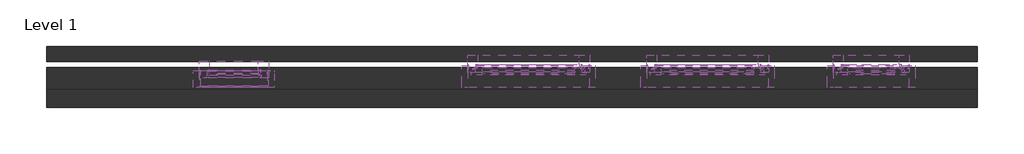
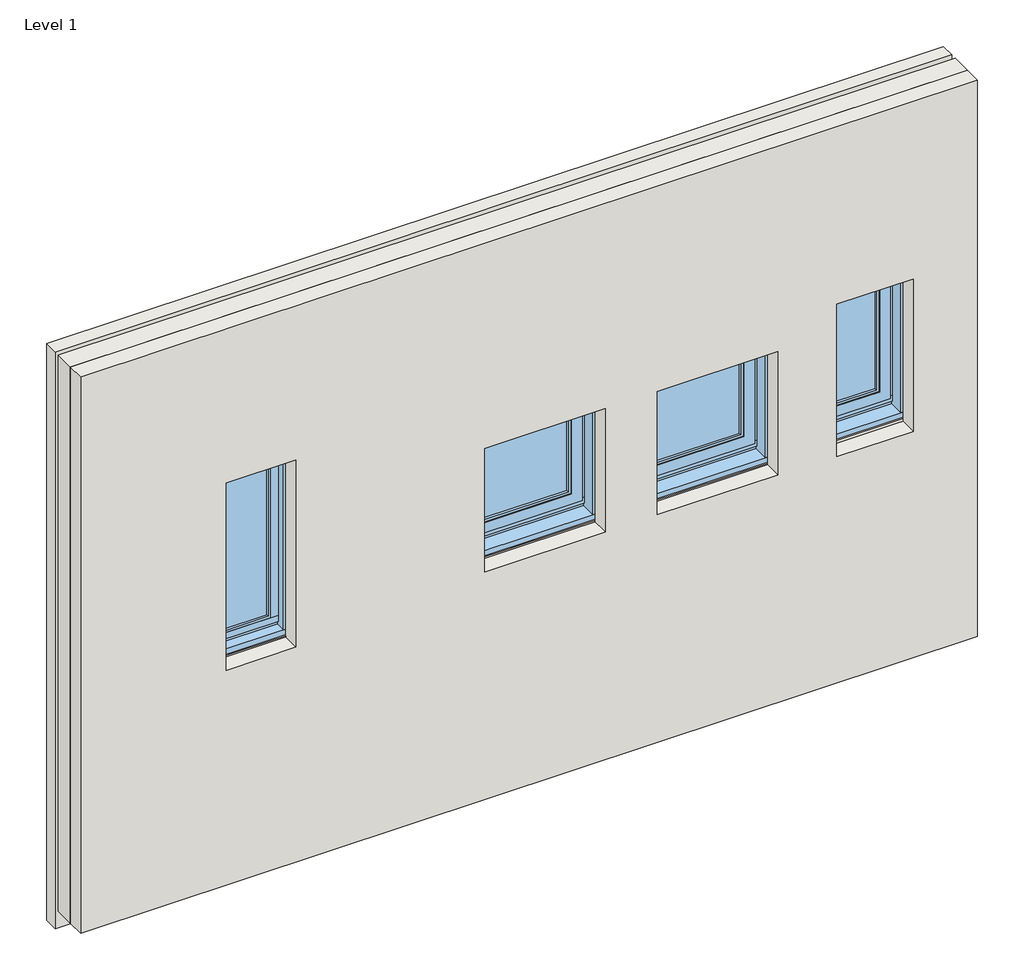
# One storey: 49 windows, 3 walls, 1 assembly.
"""IFC4 building model written with IfcOpenShell, lengths in millimetres."""

from ifc_helpers import new_model, si_unit, frame, origin, place, context, project, spatial, polyline, outline, extrude, faceted_brep, transform, mapped, element, save
from components import assembly_5325c99d, window_7516f263, window_0d1de98a, window_6d7f6df3, window_522cf8dc, window_de1a16cd, window_43f0fc4d, window_45f6263d, window_7e491630, window_17x17_4fd7d2a2, window_17x17_9f9c80e4, window_43x145_40ad70f9, window_43x145_54d50d98, window_53x145_1822dd6a, window_53x145_cc17f5d3, window_68x90_2b73533a, window_68x90_cc8fd18b, type_877268f2, type_0742a6f5, type_b2457fb0, type_2cc2a0ae, type_3ffed789, type_fa8d7bbd, type_75c93bea, type_42751e48, type_1c15dc0f, type_efeb9785, bis_67x114_182fecaf, bis_67x114_98b7bb84, dv_bis_67x114_ce80c372, dv_bis_67x114_87e64734, dv_bis67x114_da2e3f7c, dv_bis67x114_6041befc, dv_bis67x114_6f5bf67f, dv_bis67x114_4c47c3ec, type_e34618c7, type_f8ae4d67, type_0a3f7664

model = new_model("IFC4")

# Units and contexts
model_context = context("Model", 3, world=origin())
ifc_project = project(units=[si_unit("LENGTHUNIT", "METRE", prefix="MILLI")], contexts=[model_context])

# Site, building, storey
site = spatial("IfcSite", under=ifc_project)
building = spatial("IfcBuilding", under=site)
storey = spatial("IfcBuildingStorey", under=building, Name="Level 1", Elevation=0.0)

# Assembly
placement = place(None, origin())
assembly_shape = assembly_5325c99d(model_context)
element("IfcElementAssembly", 1, ObjectType="NLRS_31_WI_H11_A1vg_GM : 455 breed", at=placement, inside=storey, context=model_context, shape_type="MappedRepresentation", body=[
    mapped(assembly_shape, transform((-1382.8843523, 5876.3964558, 450.0), x_axis=(-1.0, 0.0, 0.0), y_axis=(0.0, -1.0, 0.0), z_axis=(0.0, 0.0, 1.0))),
])

# Walls
element("IfcWall", 2, ObjectType="NLRS_21_WA_isolatie_EPS 140mm", at=placement, inside=storey, context=model_context, shape_type="Brep", body=[
    faceted_brep([(-2610.8843523, 5691.3964558, 0.0), (3489.1156477, 5691.3964558, 0.0), (3489.1156477, 5691.3964558, 4000.0), (-2610.8843523, 5691.3964558, 4000.0), (109.8328544, 5691.3964558, 1647.1275233), (109.8328544, 5691.3964558, 2523.4575434), (985.8328544, 5691.3964558, 2523.4575434), (985.8328544, 5691.3964558, 1647.1275233), (1282.9030625, 5691.3964558, 1647.1275233), (1282.9030625, 5691.3964558, 2523.4575434), (2158.9030625, 5691.3964558, 2523.4575434), (2158.9030625, 5691.3964558, 1647.1275233), (2504.9732706, 5691.3964558, 1647.1275233), (2504.9732706, 5691.3964558, 2723.4575434), (3080.9732706, 5691.3964558, 2723.4575434), (3080.9732706, 5691.3964558, 1647.1275233), (-1648.3843523, 5691.3964558, 1554.6), (-1648.3843523, 5691.3964558, 3121.021725), (-1117.3843523, 5691.3964558, 3121.021725), (-1117.3843523, 5691.3964558, 1554.6), (3489.1156477, 5831.3964558, 0.0), (-2610.8843523, 5831.3964558, 0.0), (-2610.8843523, 5831.3964558, 4000.0), (3489.1156477, 5831.3964558, 4000.0), (1282.9030625, 5831.3964558, 2516.1204543), (1282.9030625, 5831.3964558, 1647.1275233), (2158.9030625, 5831.3964558, 1647.1275233), (2158.9030625, 5831.3964558, 2516.1204543), (2504.9732706, 5831.3964558, 2716.1204543), (2504.9732706, 5831.3964558, 1647.1275233), (3080.9732706, 5831.3964558, 1647.1275233), (3080.9732706, 5831.3964558, 2716.1204543), (109.8328544, 5831.3964558, 2516.1204543), (109.8328544, 5831.3964558, 1647.1275233), (985.8328544, 5831.3964558, 1647.1275233), (985.8328544, 5831.3964558, 2516.1204543), (-1648.3843523, 5831.3964558, 3113.6846359), (-1648.3843523, 5831.3964558, 1554.6), (-1117.3843523, 5831.3964558, 1554.6), (-1117.3843523, 5831.3964558, 3113.6846359)], [[[0, 1, 2, 3], [4, 5, 6, 7], [8, 9, 10, 11], [12, 13, 14, 15], [16, 17, 18, 19]], [[20, 21, 22, 23], [24, 25, 26, 27], [28, 29, 30, 31], [32, 33, 34, 35], [36, 37, 38, 39]], [[1, 0, 21, 20]], [[2, 1, 20, 23]], [[3, 2, 23, 22]], [[0, 3, 22, 21]], [[32, 5, 4, 33]], [[6, 35, 34, 7]], [[33, 4, 7, 34]], [[5, 32, 35, 6]], [[24, 9, 8, 25]], [[26, 11, 10, 27]], [[25, 8, 11, 26]], [[9, 24, 27, 10]], [[28, 13, 12, 29]], [[30, 15, 14, 31]], [[29, 12, 15, 30]], [[13, 28, 31, 14]], [[36, 17, 16, 37]], [[38, 19, 18, 39]], [[37, 16, 19, 38]], [[17, 36, 39, 18]]]),
])
element("IfcWall", 3, ObjectType="NLRS_21_WA_kalkzandsteen CS12 120mm", at=placement, inside=storey, context=model_context, shape_type="SweptSolid", body=[
    extrude(outline(polyline([(0.0, 3489.1156477), (4000.0, 3489.1156477), (4000.0, -2610.8843523), (0.0, -2610.8843523), (0.0, 3489.1156477)]), holes=[polyline([(2523.1275233, 137.8328544), (2523.1275233, 957.8328544), (1637.1275233, 957.8328544), (1637.1275233, 137.8328544), (2523.1275233, 137.8328544)]), polyline([(2523.1275233, 1310.9030625), (2523.1275233, 2130.9030625), (1637.1275233, 2130.9030625), (1637.1275233, 1310.9030625), (2523.1275233, 1310.9030625)]), polyline([(2723.1275233, 2532.9732706), (2723.1275233, 3052.9732706), (1627.1275233, 3052.9732706), (1627.1275233, 2532.9732706), (2723.1275233, 2532.9732706)]), polyline([(2890.0, -1620.3843523), (2890.0, -1145.3843523), (1544.6, -1145.3843523), (1544.6, -1620.3843523), (2890.0, -1620.3843523)])]), frame((0.0, 5571.3964558, 0.0), z_axis=(0.0, 1.0, 0.0), x_axis=(0.0, 0.0, 1.0)), (0.0, 0.0, 1.0), 120.0),
])
element("IfcWall", 4, ObjectType="NLRS_21_WA_metselwerk bestaand 100mm", at=placement, inside=storey, context=model_context, shape_type="SweptSolid", body=[
    extrude(outline(polyline([(-150.0, -2610.8843523), (-150.0, 3489.1156477), (4000.0, 3489.1156477), (4000.0, -2610.8843523), (-150.0, -2610.8843523)]), holes=[polyline([(2523.1275233, 137.8328544), (2523.1275233, 957.8328544), (1637.1275233, 957.8328544), (1637.1275233, 137.8328544), (2523.1275233, 137.8328544)]), polyline([(2523.1275233, 1310.9030625), (2523.1275233, 2130.9030625), (1637.1275233, 2130.9030625), (1637.1275233, 1310.9030625), (2523.1275233, 1310.9030625)]), polyline([(2723.1275233, 2532.9732706), (2723.1275233, 3052.9732706), (1627.1275233, 3052.9732706), (1627.1275233, 2532.9732706), (2723.1275233, 2532.9732706)]), polyline([(2890.0, -1620.3843523), (2890.0, -1145.3843523), (1544.6, -1145.3843523), (1544.6, -1620.3843523), (2890.0, -1620.3843523)])]), frame((0.0, 5871.3964558, 0.0), z_axis=(0.0, 1.0, 0.0), x_axis=(0.0, 0.0, 1.0)), (0.0, 0.0, 1.0), 100.0),
])

# Windows
window_shape = window_7516f263(model_context)
element("IfcWindow", 5, ObjectType="NLRS_30_WIN_spouwlat-zijstijll_sh_gen_TOBA-JM : ok-bk-recht-45x145", at=placement, inside=storey, context=model_context, shape_type="MappedRepresentation", body=[
    mapped(window_shape, transform((147.8328544, 5846.3964558, 1685.1275233), x_axis=(1.0, 0.0, 0.0), y_axis=(0.0, 1.0, 0.0), z_axis=(0.0, 0.0, 1.0))),
])
element("IfcWindow", 6, ObjectType="NLRS_30_WIN_spouwlat-zijstijll_sh_gen_TOBA-JM : ok-bk-recht-45x145", at=placement, inside=storey, context=model_context, shape_type="MappedRepresentation", body=[
    mapped(window_shape, transform((1320.9030625, 5846.3964558, 1685.1275233), x_axis=(1.0, 0.0, 0.0), y_axis=(0.0, 1.0, 0.0), z_axis=(0.0, 0.0, 1.0))),
])
window_2_shape = window_0d1de98a(model_context)
element("IfcWindow", 7, ObjectType="NLRS_30_WIN_spouwlat-zijstijll_sh_gen_TOBA-JM : ok-bk-recht-45x145", at=placement, inside=storey, context=model_context, shape_type="MappedRepresentation", body=[
    mapped(window_2_shape, transform((947.8328544, 5846.3964558, 1685.1275233), x_axis=(-1.0, 0.0, 0.0), y_axis=(0.0, -1.0, 0.0), z_axis=(0.0, 0.0, 1.0))),
])
element("IfcWindow", 8, ObjectType="NLRS_30_WIN_spouwlat-zijstijll_sh_gen_TOBA-JM : ok-bk-recht-45x145", at=placement, inside=storey, context=model_context, shape_type="MappedRepresentation", body=[
    mapped(window_2_shape, transform((2120.9030625, 5846.3964558, 1685.1275233), x_axis=(-1.0, 0.0, 0.0), y_axis=(0.0, -1.0, 0.0), z_axis=(0.0, 0.0, 1.0))),
])
window_3_shape = window_6d7f6df3(model_context)
element("IfcWindow", 9, ObjectType="NLRS_30_WIN_aanslagprofiel_sh_gen_TOBA-JM : aanslagprofiel", at=placement, inside=storey, context=model_context, shape_type="MappedRepresentation", body=[
    mapped(window_3_shape, transform((547.8328544, 5852.3964558, 1752.1275233), x_axis=(-1.0, 0.0, 0.0), y_axis=(0.0, -1.0, 0.0), z_axis=(0.0, 0.0, 1.0))),
])
element("IfcWindow", 10, ObjectType="NLRS_30_WIN_aanslagprofiel_sh_gen_TOBA-JM : aanslagprofiel", at=placement, inside=storey, context=model_context, shape_type="MappedRepresentation", body=[
    mapped(window_3_shape, transform((1720.9030625, 5852.3964558, 1752.1275233), x_axis=(-1.0, 0.0, 0.0), y_axis=(0.0, -1.0, 0.0), z_axis=(0.0, 0.0, 1.0))),
])
window_4_shape = window_522cf8dc(model_context)
element("IfcWindow", 11, ObjectType="NLRS_30_WIN_glas-isolerend-raam_sh_gen_TOBA-JM : isolerend-raam", at=placement, inside=storey, context=model_context, shape_type="MappedRepresentation", body=[
    mapped(window_4_shape, transform((547.8328544, 5852.3964558, 1752.1275233), x_axis=(-1.0, 0.0, 0.0), y_axis=(0.0, -1.0, 0.0), z_axis=(0.0, 0.0, 1.0))),
])
element("IfcWindow", 12, ObjectType="NLRS_30_WIN_glas-isolerend-raam_sh_gen_TOBA-JM : isolerend-raam", at=placement, inside=storey, context=model_context, shape_type="MappedRepresentation", body=[
    mapped(window_4_shape, transform((1720.9030625, 5852.3964558, 1752.1275233), x_axis=(-1.0, 0.0, 0.0), y_axis=(0.0, -1.0, 0.0), z_axis=(0.0, 0.0, 1.0))),
])
window_5_shape = window_de1a16cd(model_context)
element("IfcWindow", 13, ObjectType="NLRS_30_WIN_spouwlat-zijstijll_sh_gen_TOBA-JM : ok-bk-recht-45x145", at=placement, inside=storey, context=model_context, shape_type="MappedRepresentation", body=[
    mapped(window_5_shape, transform((2542.9732706, 5846.3964558, 1685.1275233), x_axis=(1.0, 0.0, 0.0), y_axis=(0.0, 1.0, 0.0), z_axis=(0.0, 0.0, 1.0))),
])
window_6_shape = window_43f0fc4d(model_context)
element("IfcWindow", 14, ObjectType="NLRS_30_WIN_spouwlat-zijstijll_sh_gen_TOBA-JM : ok-bk-recht-45x145", at=placement, inside=storey, context=model_context, shape_type="MappedRepresentation", body=[
    mapped(window_6_shape, transform((3042.9732706, 5846.3964558, 1685.1275233), x_axis=(-1.0, 0.0, 0.0), y_axis=(0.0, -1.0, 0.0), z_axis=(0.0, 0.0, 1.0))),
])
window_7_shape = window_45f6263d(model_context)
element("IfcWindow", 15, ObjectType="NLRS_30_WIN_aanslagprofiel_sh_gen_TOBA-JM : aanslagprofiel", at=placement, inside=storey, context=model_context, shape_type="MappedRepresentation", body=[
    mapped(window_7_shape, transform((2792.9732706, 5852.3964558, 1752.1275233), x_axis=(-1.0, 0.0, 0.0), y_axis=(0.0, -1.0, 0.0), z_axis=(0.0, 0.0, 1.0))),
])
window_8_shape = window_7e491630(model_context)
element("IfcWindow", 16, ObjectType="NLRS_30_WIN_glas-isolerend-raam_sh_gen_TOBA-JM : isolerend-raam", at=placement, inside=storey, context=model_context, shape_type="MappedRepresentation", body=[
    mapped(window_8_shape, transform((2792.9732706, 5852.3964558, 1752.1275233), x_axis=(-1.0, 0.0, 0.0), y_axis=(0.0, -1.0, 0.0), z_axis=(0.0, 0.0, 1.0))),
])
window_17x17_shape = window_17x17_4fd7d2a2(model_context)
element("IfcWindow", 17, ObjectType="NLRS_30_WIN_glaslat-raam_sh_gen_TOBA-JM : 17x17", at=placement, inside=storey, context=model_context, shape_type="MappedRepresentation", body=[
    mapped(window_17x17_shape, transform((547.8328544, 5852.3964558, 1752.1275233), x_axis=(-1.0, 0.0, 0.0), y_axis=(0.0, -1.0, 0.0), z_axis=(0.0, 0.0, 1.0))),
])
element("IfcWindow", 18, ObjectType="NLRS_30_WIN_glaslat-raam_sh_gen_TOBA-JM : 17x17", at=placement, inside=storey, context=model_context, shape_type="MappedRepresentation", body=[
    mapped(window_17x17_shape, transform((1720.9030625, 5852.3964558, 1752.1275233), x_axis=(-1.0, 0.0, 0.0), y_axis=(0.0, -1.0, 0.0), z_axis=(0.0, 0.0, 1.0))),
])
window_17x17_2_shape = window_17x17_9f9c80e4(model_context)
element("IfcWindow", 19, ObjectType="NLRS_30_WIN_glaslat-raam_sh_gen_TOBA-JM : 17x17", at=placement, inside=storey, context=model_context, shape_type="MappedRepresentation", body=[
    mapped(window_17x17_2_shape, transform((2792.9732706, 5852.3964558, 1752.1275233), x_axis=(-1.0, 0.0, 0.0), y_axis=(0.0, -1.0, 0.0), z_axis=(0.0, 0.0, 1.0))),
])
window_43x145_shape = window_43x145_40ad70f9(model_context)
element("IfcWindow", 20, ObjectType="NLRS_30_WIN_spouwlat_bovendorpel-zonder-bovenrek_sh_gen_TOBA-JM : 43x145", at=placement, inside=storey, context=model_context, shape_type="MappedRepresentation", body=[
    mapped(window_43x145_shape, transform((547.8328544, 5846.3964558, 2485.1275233), x_axis=(-1.0, 0.0, 0.0), y_axis=(0.0, -1.0, 0.0), z_axis=(0.0, 0.0, 1.0))),
])
element("IfcWindow", 21, ObjectType="NLRS_30_WIN_spouwlat_bovendorpel-zonder-bovenrek_sh_gen_TOBA-JM : 43x145", at=placement, inside=storey, context=model_context, shape_type="MappedRepresentation", body=[
    mapped(window_43x145_shape, transform((1720.9030625, 5846.3964558, 2485.1275233), x_axis=(-1.0, 0.0, 0.0), y_axis=(0.0, -1.0, 0.0), z_axis=(0.0, 0.0, 1.0))),
])
window_43x145_2_shape = window_43x145_54d50d98(model_context)
element("IfcWindow", 22, ObjectType="NLRS_30_WIN_spouwlat_bovendorpel-zonder-bovenrek_sh_gen_TOBA-JM : 43x145", at=placement, inside=storey, context=model_context, shape_type="MappedRepresentation", body=[
    mapped(window_43x145_2_shape, transform((2792.9732706, 5846.3964558, 2685.1275233), x_axis=(-1.0, 0.0, 0.0), y_axis=(0.0, -1.0, 0.0), z_axis=(0.0, 0.0, 1.0))),
])
window_53x145_shape = window_53x145_1822dd6a(model_context)
element("IfcWindow", 23, ObjectType="NLRS_30_WIN_spouwlat-onderdorpel_sh_gen_TOBA-JM : 53x145", at=placement, inside=storey, context=model_context, shape_type="MappedRepresentation", body=[
    mapped(window_53x145_shape, transform((547.8328544, 5846.3964558, 1685.1275233), x_axis=(-1.0, 0.0, 0.0), y_axis=(0.0, -1.0, 0.0), z_axis=(0.0, 0.0, 1.0))),
])
element("IfcWindow", 24, ObjectType="NLRS_30_WIN_spouwlat-onderdorpel_sh_gen_TOBA-JM : 53x145", at=placement, inside=storey, context=model_context, shape_type="MappedRepresentation", body=[
    mapped(window_53x145_shape, transform((1720.9030625, 5846.3964558, 1685.1275233), x_axis=(-1.0, 0.0, 0.0), y_axis=(0.0, -1.0, 0.0), z_axis=(0.0, 0.0, 1.0))),
])
window_53x145_2_shape = window_53x145_cc17f5d3(model_context)
element("IfcWindow", 25, ObjectType="NLRS_30_WIN_spouwlat-onderdorpel_sh_gen_TOBA-JM : 53x145", at=placement, inside=storey, context=model_context, shape_type="MappedRepresentation", body=[
    mapped(window_53x145_2_shape, transform((2792.9732706, 5846.3964558, 1685.1275233), x_axis=(-1.0, 0.0, 0.0), y_axis=(0.0, -1.0, 0.0), z_axis=(0.0, 0.0, 1.0))),
])
window_68x90_shape = window_68x90_2b73533a(model_context)
element("IfcWindow", 26, ObjectType="NLRS_30_WIN_raamhout_sh_gen_TOBA-JM : 68x90", at=placement, inside=storey, context=model_context, shape_type="MappedRepresentation", body=[
    mapped(window_68x90_shape, transform((547.8328544, 5852.3964558, 1752.1275233), x_axis=(-1.0, 0.0, 0.0), y_axis=(0.0, -1.0, 0.0), z_axis=(0.0, 0.0, 1.0))),
])
element("IfcWindow", 27, ObjectType="NLRS_30_WIN_raamhout_sh_gen_TOBA-JM : 68x90", at=placement, inside=storey, context=model_context, shape_type="MappedRepresentation", body=[
    mapped(window_68x90_shape, transform((1720.9030625, 5852.3964558, 1752.1275233), x_axis=(-1.0, 0.0, 0.0), y_axis=(0.0, -1.0, 0.0), z_axis=(0.0, 0.0, 1.0))),
])
window_68x90_2_shape = window_68x90_cc8fd18b(model_context)
element("IfcWindow", 28, ObjectType="NLRS_30_WIN_raamhout_sh_gen_TOBA-JM : 68x90", at=placement, inside=storey, context=model_context, shape_type="MappedRepresentation", body=[
    mapped(window_68x90_2_shape, transform((2792.9732706, 5852.3964558, 1752.1275233), x_axis=(-1.0, 0.0, 0.0), y_axis=(0.0, -1.0, 0.0), z_axis=(0.0, 0.0, 1.0))),
])
ifc_type_shape = type_877268f2(model_context)
element("IfcWindow", 29, ObjectType="NLRS_30_MC_spouwlat_onderdorpel_bis_53x110 : Type", at=placement, inside=storey, context=model_context, shape_type="MappedRepresentation", body=[
    mapped(ifc_type_shape, transform((-1382.8843523, 5811.3964558, 1592.6), x_axis=(-1.0, 0.0, 0.0), y_axis=(0.0, -1.0, 0.0), z_axis=(0.0, 0.0, 1.0))),
])
ifc_type_2_shape = type_0742a6f5(model_context)
element("IfcWindow", 30, ObjectType="NLRS_30_MC_spouwlat_zijstijll_47x110 : Type", at=placement, inside=storey, context=model_context, shape_type="MappedRepresentation", body=[
    mapped(ifc_type_2_shape, transform((-1610.3843523, 5811.3964558, 1592.6), x_axis=(1.0, 0.0, 0.0), y_axis=(0.0, 1.0, 0.0), z_axis=(0.0, 0.0, 1.0))),
])
ifc_type_3_shape = type_b2457fb0(model_context)
element("IfcWindow", 31, ObjectType="NLRS_30_MC_spouwlat_bovendorpel_bis_38x101 : Type", at=placement, inside=storey, context=model_context, shape_type="MappedRepresentation", body=[
    mapped(ifc_type_3_shape, transform((-1382.8843523, 5811.3964558, 2890.0), x_axis=(-1.0, 0.0, 0.0), y_axis=(0.0, -1.0, 0.0), z_axis=(0.0, 0.0, 1.0))),
])
ifc_type_4_shape = type_2cc2a0ae(model_context)
element("IfcWindow", 32, ObjectType="NLRS_30_MC_aftimmering_rekje : Type", at=placement, inside=storey, context=model_context, shape_type="MappedRepresentation", body=[
    mapped(ifc_type_4_shape, transform((-1382.8843523, 5710.3964558, 2890.0), x_axis=(1.0000000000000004, 0.0, 0.0), y_axis=(0.0, 1.0000000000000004, 0.0), z_axis=(0.0, 0.0, 1.0))),
])
ifc_type_5_shape = type_3ffed789(model_context)
element("IfcWindow", 33, ObjectType="NLRS_30_MC_spouwlat_bovendorpel_boven_rekje_bis_45x101 : Type", at=placement, inside=storey, context=model_context, shape_type="MappedRepresentation", body=[
    mapped(ifc_type_5_shape, transform((-1382.8843523, 5811.3964558, 3075.0), x_axis=(-1.0, 0.0, 0.0), y_axis=(0.0, -1.0, 0.0), z_axis=(0.0, 0.0, 1.0))),
])
ifc_type_6_shape = type_fa8d7bbd(model_context)
element("IfcWindow", 34, ObjectType="NLRS_30_MC_onderdorpel_bis_67x114 : Type", at=placement, inside=storey, context=model_context, shape_type="MappedRepresentation", body=[
    mapped(ifc_type_6_shape, transform((-1382.8843523, 5876.3964558, 1592.6), x_axis=(-1.0, 0.0, 0.0), y_axis=(0.0, -1.0, 0.0), z_axis=(0.0, 0.0, 1.0))),
])
ifc_type_7_shape = type_75c93bea(model_context)
element("IfcWindow", 35, ObjectType="NLRS_30_MC_zijstijll_vg_bis_67x114 : Type", at=placement, inside=storey, context=model_context, shape_type="MappedRepresentation", body=[
    mapped(ifc_type_7_shape, transform((-1155.3843523, 5876.3964558, 1592.6), x_axis=(-1.0, 0.0, 0.0), y_axis=(0.0, -1.0, 0.0), z_axis=(0.0, 0.0, 1.0))),
])
ifc_type_8_shape = type_42751e48(model_context)
element("IfcWindow", 36, ObjectType="NLRS_30_MC_zijstijll_vg_bis_67x114 : Type", at=placement, inside=storey, context=model_context, shape_type="MappedRepresentation", body=[
    mapped(ifc_type_8_shape, transform((-1610.3843523, 5876.3964558, 1592.6), x_axis=(1.0, 0.0, 0.0), y_axis=(0.0, 1.0, 0.0), z_axis=(0.0, 0.0, 1.0))),
])
ifc_type_9_shape = type_1c15dc0f(model_context)
element("IfcWindow", 37, ObjectType="NLRS_30_MC_spouwlat_zijstijll_47x110 : Type", at=placement, inside=storey, context=model_context, shape_type="MappedRepresentation", body=[
    mapped(ifc_type_9_shape, transform((-1155.3843523, 5811.3964558, 1592.6), x_axis=(-1.0, 0.0, 0.0), y_axis=(0.0, -1.0, 0.0), z_axis=(0.0, 0.0, 1.0))),
])
ifc_type_10_shape = type_efeb9785(model_context)
element("IfcWindow", 38, ObjectType="NLRS_30_MC_bovendorpel_vg_bis_90x114 : Type", at=placement, inside=storey, context=model_context, shape_type="MappedRepresentation", body=[
    mapped(ifc_type_10_shape, transform((-1382.8843523, 5876.3964558, 2890.0), x_axis=(-1.0, 0.0, 0.0), y_axis=(0.0, -1.0, 0.0), z_axis=(0.0, 0.0, 1.0))),
])
bis_67x114_shape = bis_67x114_182fecaf(model_context)
element("IfcWindow", 39, ObjectType="NLRS_30_WIN_onderdorpel_sh_gen_TOBA-JM : bis-67x114", at=placement, inside=storey, context=model_context, shape_type="MappedRepresentation", body=[
    mapped(bis_67x114_shape, transform((547.8328544, 5914.3964558, 1685.1275233), x_axis=(-1.0, 0.0, 0.0), y_axis=(0.0, -1.0, 0.0), z_axis=(0.0, 0.0, 1.0))),
])
element("IfcWindow", 40, ObjectType="NLRS_30_WIN_onderdorpel_sh_gen_TOBA-JM : bis-67x114", at=placement, inside=storey, context=model_context, shape_type="MappedRepresentation", body=[
    mapped(bis_67x114_shape, transform((1720.9030625, 5914.3964558, 1685.1275233), x_axis=(-1.0, 0.0, 0.0), y_axis=(0.0, -1.0, 0.0), z_axis=(0.0, 0.0, 1.0))),
])
bis_67x114_2_shape = bis_67x114_98b7bb84(model_context)
element("IfcWindow", 41, ObjectType="NLRS_30_WIN_onderdorpel_sh_gen_TOBA-JM : bis-67x114", at=placement, inside=storey, context=model_context, shape_type="MappedRepresentation", body=[
    mapped(bis_67x114_2_shape, transform((2792.9732706, 5914.3964558, 1685.1275233), x_axis=(-1.0, 0.0, 0.0), y_axis=(0.0, -1.0, 0.0), z_axis=(0.0, 0.0, 1.0))),
])
dv_bis_67x114_shape = dv_bis_67x114_ce80c372(model_context)
element("IfcWindow", 42, ObjectType="NLRS_30_WIN_bovendorpel_sh_gen_TOBA-JM : dv-bis-67x114", at=placement, inside=storey, context=model_context, shape_type="MappedRepresentation", body=[
    mapped(dv_bis_67x114_shape, transform((547.8328544, 5914.3964558, 2485.1275233), x_axis=(-1.0, 0.0, 0.0), y_axis=(0.0, -1.0, 0.0), z_axis=(0.0, 0.0, 1.0))),
])
element("IfcWindow", 43, ObjectType="NLRS_30_WIN_bovendorpel_sh_gen_TOBA-JM : dv-bis-67x114", at=placement, inside=storey, context=model_context, shape_type="MappedRepresentation", body=[
    mapped(dv_bis_67x114_shape, transform((1720.9030625, 5914.3964558, 2485.1275233), x_axis=(-1.0, 0.0, 0.0), y_axis=(0.0, -1.0, 0.0), z_axis=(0.0, 0.0, 1.0))),
])
dv_bis_67x114_2_shape = dv_bis_67x114_87e64734(model_context)
element("IfcWindow", 44, ObjectType="NLRS_30_WIN_bovendorpel_sh_gen_TOBA-JM : dv-bis-67x114", at=placement, inside=storey, context=model_context, shape_type="MappedRepresentation", body=[
    mapped(dv_bis_67x114_2_shape, transform((2792.9732706, 5914.3964558, 2685.1275233), x_axis=(-1.0, 0.0, 0.0), y_axis=(0.0, -1.0, 0.0), z_axis=(0.0, 0.0, 1.0))),
])
dv_bis67x114_shape = dv_bis67x114_da2e3f7c(model_context)
element("IfcWindow", 45, ObjectType="NLRS_30_WIN_zijstijl_sh_gen_TOBA-JM : dv-bis67x114", at=placement, inside=storey, context=model_context, shape_type="MappedRepresentation", body=[
    mapped(dv_bis67x114_shape, transform((947.8328544, 5914.3964558, 1685.1275233), x_axis=(-1.0, 0.0, 0.0), y_axis=(0.0, -1.0, 0.0), z_axis=(0.0, 0.0, 1.0))),
])
element("IfcWindow", 46, ObjectType="NLRS_30_WIN_zijstijl_sh_gen_TOBA-JM : dv-bis67x114", at=placement, inside=storey, context=model_context, shape_type="MappedRepresentation", body=[
    mapped(dv_bis67x114_shape, transform((2120.9030625, 5914.3964558, 1685.1275233), x_axis=(-1.0, 0.0, 0.0), y_axis=(0.0, -1.0, 0.0), z_axis=(0.0, 0.0, 1.0))),
])
dv_bis67x114_2_shape = dv_bis67x114_6041befc(model_context)
element("IfcWindow", 47, ObjectType="NLRS_30_WIN_zijstijl_sh_gen_TOBA-JM : dv-bis67x114", at=placement, inside=storey, context=model_context, shape_type="MappedRepresentation", body=[
    mapped(dv_bis67x114_2_shape, transform((147.8328544, 5914.3964558, 1685.1275233), x_axis=(1.0, 0.0, 0.0), y_axis=(0.0, 1.0, 0.0), z_axis=(0.0, 0.0, 1.0))),
])
element("IfcWindow", 48, ObjectType="NLRS_30_WIN_zijstijl_sh_gen_TOBA-JM : dv-bis67x114", at=placement, inside=storey, context=model_context, shape_type="MappedRepresentation", body=[
    mapped(dv_bis67x114_2_shape, transform((1320.9030625, 5914.3964558, 1685.1275233), x_axis=(1.0, 0.0, 0.0), y_axis=(0.0, 1.0, 0.0), z_axis=(0.0, 0.0, 1.0))),
])
dv_bis67x114_3_shape = dv_bis67x114_6f5bf67f(model_context)
element("IfcWindow", 49, ObjectType="NLRS_30_WIN_zijstijl_sh_gen_TOBA-JM : dv-bis67x114", at=placement, inside=storey, context=model_context, shape_type="MappedRepresentation", body=[
    mapped(dv_bis67x114_3_shape, transform((3042.9732706, 5914.3964558, 1685.1275233), x_axis=(-1.0, 0.0, 0.0), y_axis=(0.0, -1.0, 0.0), z_axis=(0.0, 0.0, 1.0))),
])
dv_bis67x114_4_shape = dv_bis67x114_4c47c3ec(model_context)
element("IfcWindow", 50, ObjectType="NLRS_30_WIN_zijstijl_sh_gen_TOBA-JM : dv-bis67x114", at=placement, inside=storey, context=model_context, shape_type="MappedRepresentation", body=[
    mapped(dv_bis67x114_4_shape, transform((2542.9732706, 5914.3964558, 1685.1275233), x_axis=(1.0, 0.0, 0.0), y_axis=(0.0, 1.0, 0.0), z_axis=(0.0, 0.0, 1.0))),
])
ifc_type_11_shape = type_e34618c7(model_context)
element("IfcWindow", 51, ObjectType="NLRS_30_MC_glaslat_vast_17x17 : type", at=placement, inside=storey, context=model_context, shape_type="MappedRepresentation", body=[
    mapped(ifc_type_11_shape, transform((-1382.8843523, 5814.3964558, 1659.6), x_axis=(-1.0, 0.0, 0.0), y_axis=(0.0, -1.0, 0.0), z_axis=(0.0, 0.0, 1.0))),
])
ifc_type_12_shape = type_f8ae4d67(model_context)
element("IfcWindow", 52, ObjectType="NLRS_30_MC_beglazingsprofiel_aluminium : type", at=placement, inside=storey, context=model_context, shape_type="MappedRepresentation", body=[
    mapped(ifc_type_12_shape, transform((-1382.8843523, 5814.3964558, 1659.6), x_axis=(-1.0, 0.0, 0.0), y_axis=(0.0, -1.0, 0.0), z_axis=(0.0, 0.0, 1.0))),
])
ifc_type_13_shape = type_0a3f7664(model_context)
element("IfcWindow", 53, ObjectType="NLRS_30_MC_glas_isolerend_vast : type", at=placement, inside=storey, context=model_context, shape_type="MappedRepresentation", body=[
    mapped(ifc_type_13_shape, transform((-1382.8843523, 5814.3964558, 1659.6), x_axis=(-1.0, 0.0, 0.0), y_axis=(0.0, -1.0, 0.0), z_axis=(0.0, 0.0, 1.0))),
])

save(model, "model.ifc")
